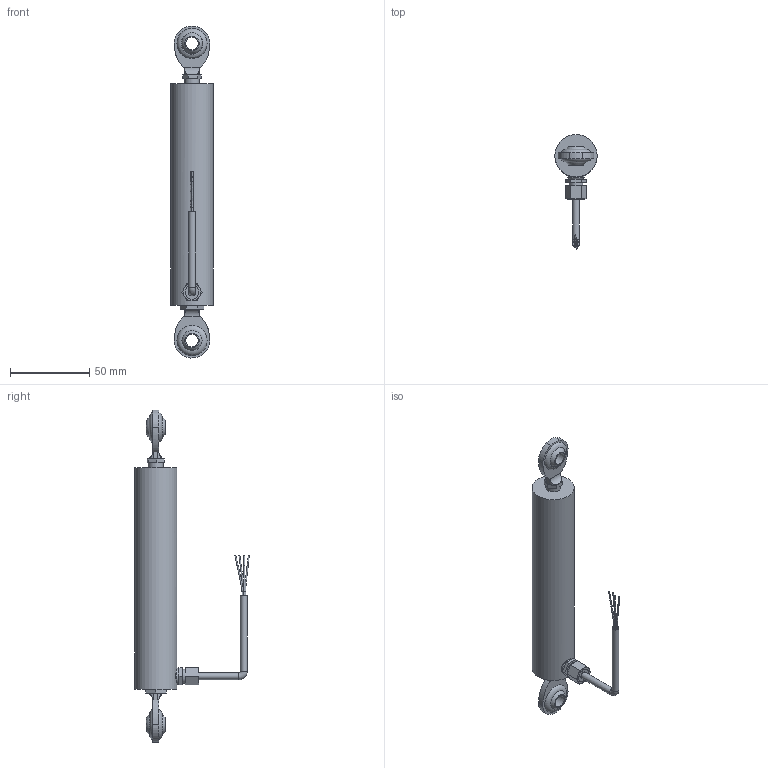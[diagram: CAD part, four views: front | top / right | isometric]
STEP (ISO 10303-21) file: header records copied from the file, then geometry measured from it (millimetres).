
FILE_DESCRIPTION(/* description */ (''),/* implementation_level */ '2;1');
FILE_NAME(/* name */ 'ILPS-27-050-R-00-YY-Z (wrapped).step',/* time_stamp */ '2024-02-08T12:54:54-05:00',/* author */ ('TSC_Grant'),/* organization */ (''),/* preprocessor_version */ 'ST-DEVELOPER v19.2',/* originating_system */ 'Autodesk Inventor 2024',/* authorisation */ '');
FILE_SCHEMA (('AUTOMOTIVE_DESIGN { 1 0 10303 214 3 1 1 }'));
Length unit declared in the file: inch
Products named in the file (4): ILPS-27-100-R-00-50-A (wrapped); ILPS-27-100-R-00-50-A Housing (wrapped); ILPS-27-100-R-00-50-A Shaft (wrapped); LZ-33 Cable
Assembly tree (3 placements, depth 2):
  ILPS-27-100-R-00-50-A (wrapped)
    ILPS-27-100-R-00-50-A Housing (wrapped)
    ILPS-27-100-R-00-50-A Shaft (wrapped)
    LZ-33 Cable
Bounding box: 26.67 x 72.34 x 209.52 mm (x, y, z)
Volume: 80874.7 mm3; surface area: 25865.1 mm2
Topology: 4 solids, 4 shells, 155 faces, 348 edges, 229 vertices
Faces by surface type: plane 78, cylinder 55, bspline 10, torus 6, sphere 4, cone 2
Full cylindrical faces by diameter (mm): 0.635 x4, 0.762 x4, 4.369 x3, 4.572 x2, 6.35 x1, 6.858 x1, 8 x2, 8.712 x2, 9.398 x2, 10.999 x1, 26.67 x1
Entity records: 7341 total; most frequent: CARTESIAN_POINT 3418, DIRECTION 757, ORIENTED_EDGE 696, EDGE_CURVE 348, AXIS2_PLACEMENT_3D 306, VERTEX_POINT 229, EDGE_LOOP 189, STYLED_ITEM 159
